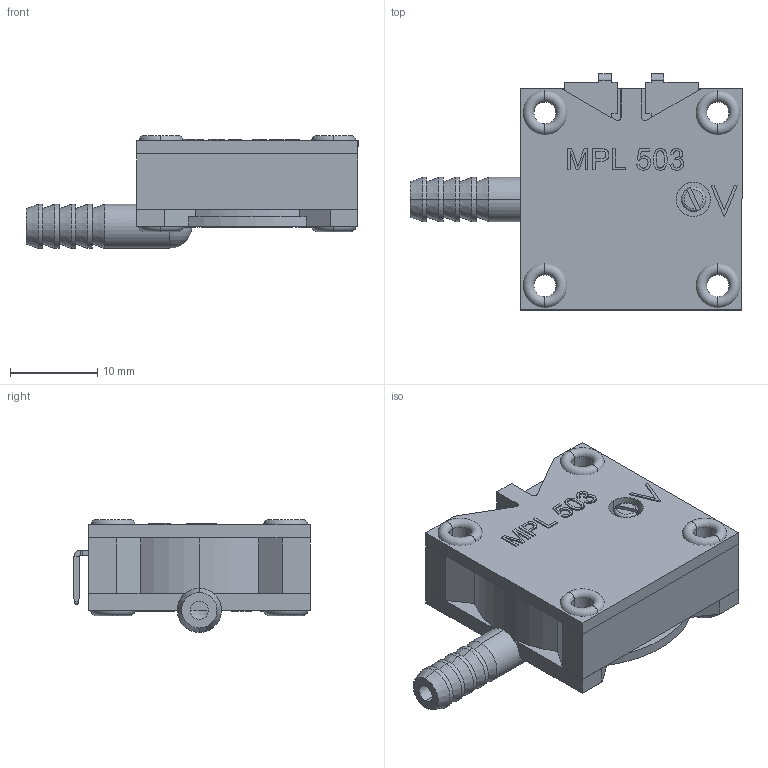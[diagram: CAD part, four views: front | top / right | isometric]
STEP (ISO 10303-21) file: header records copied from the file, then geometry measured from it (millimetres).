
FILE_DESCRIPTION (( 'STEP AP203' ), '1' );
FILE_NAME ('0503PO-GP-0006.STEP', '2016-02-19T14:17:42', ( '' ), ( '' ), 'SwSTEP 2.0', 'SolidWorks 2016', '' );
FILE_SCHEMA (( 'CONFIG_CONTROL_DESIGN' ));
Length unit declared in the file: inch
Products named in the file (1): 0503PO-GP-0006
Bounding box: 38.1 x 27.09 x 12.96 mm (x, y, z)
Surface area: 4697.8 mm2 (no closed solid volume)
Topology: 0 solids, 12 shells, 632 faces, 2214 edges, 1555 vertices
Faces by surface type: plane 392, bspline 171, cylinder 40, torus 18, cone 10, sphere 1
Entity records: 32307 total; most frequent: CARTESIAN_POINT 14589, ORIENTED_EDGE 3725, DIRECTION 2958, EDGE_CURVE 2213, VECTOR 1606, LINE 1606, VERTEX_POINT 1555, EDGE_LOOP 726
